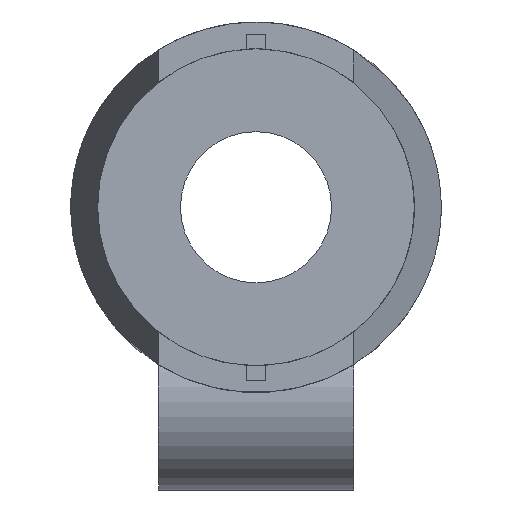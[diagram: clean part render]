
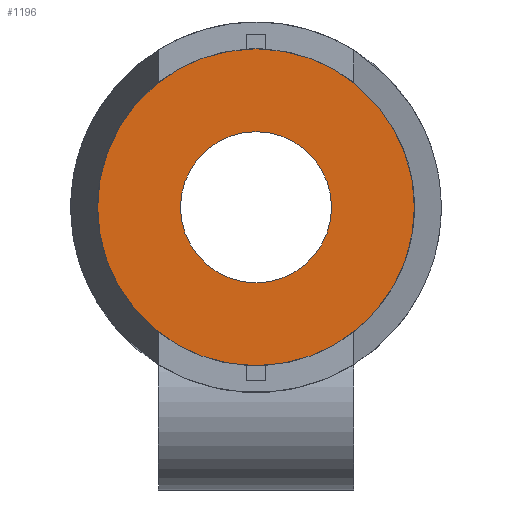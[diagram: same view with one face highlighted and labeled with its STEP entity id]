
A CAD part, left-side view. The second image highlights one B-rep face of the part: STEP entity #1196.
In plain terms, the highlighted planar face has unit normal (-1, 0, 0).
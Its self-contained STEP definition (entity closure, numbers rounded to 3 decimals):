
#106=CIRCLE('',#1320,3.1);
#114=CIRCLE('',#1335,6.5);
#414=ORIENTED_EDGE('',*,*,#598,.F.);
#415=ORIENTED_EDGE('',*,*,#618,.T.);
#598=EDGE_CURVE('',#725,#725,#106,.T.);
#618=EDGE_CURVE('',#739,#739,#114,.T.);
#725=VERTEX_POINT('',#2006);
#739=VERTEX_POINT('',#2047);
#1013=EDGE_LOOP('',(#414));
#1014=EDGE_LOOP('',(#415));
#1093=FACE_BOUND('',#1013,.T.);
#1094=FACE_BOUND('',#1014,.T.);
#1135=PLANE('',#1334);
#1196=ADVANCED_FACE('',(#1093,#1094),#1135,.F.);
#1320=AXIS2_PLACEMENT_3D('',#2005,#1646,#1647);
#1334=AXIS2_PLACEMENT_3D('',#2045,#1686,#1687);
#1335=AXIS2_PLACEMENT_3D('',#2046,#1688,#1689);
#1646=DIRECTION('',(-1.,0.,0.));
#1647=DIRECTION('',(0.,0.,1.));
#1686=DIRECTION('',(1.,0.,0.));
#1687=DIRECTION('',(0.,0.,-1.));
#1688=DIRECTION('',(-1.,0.,0.));
#1689=DIRECTION('',(0.,0.,1.));
#2005=CARTESIAN_POINT('',(-14.,0.,0.));
#2006=CARTESIAN_POINT('',(-14.,0.,3.1));
#2045=CARTESIAN_POINT('',(-14.,0.,6.5));
#2046=CARTESIAN_POINT('',(-14.,0.,0.));
#2047=CARTESIAN_POINT('',(-14.,0.,6.5));
